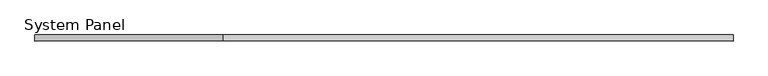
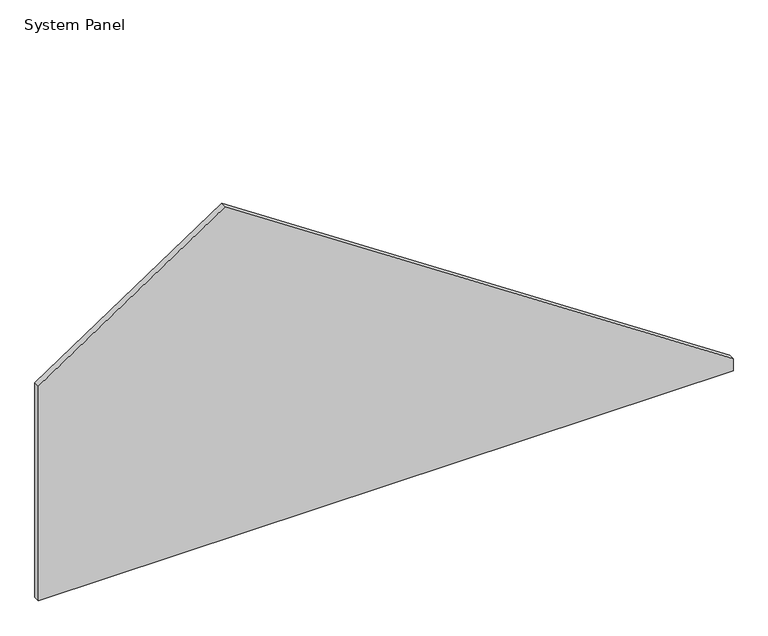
"""IFC4 building model written with IfcOpenShell, lengths in millimetres: plate geometry."""

import ifcopenshell
import ifcopenshell.guid

model = None  # the IFC model being written
_history = None  # IfcOwnerHistory: only IFC2X3 demands one
_inside = {}  # id of a spatial element -> (the spatial element, [elements in it])
_under = {}  # id of a project, library or spatial element -> (it, [spatial elements below it])
_declared = {}  # id of a project -> (the project, [libraries it declares])
_typed = {}  # id of a type object -> (the type object, [elements of that type])
_made_of = {}  # id of a material, layer set ... -> (it, [elements and type objects made of it])


def new_model(schema):
    """Start an empty IFC model of exactly this schema.

    Asked for "IFC4X3", IfcOpenShell would pick the latest addendum, in which some entities
    have other attributes; the version numbers below select the first issue.
    IFC2X3 requires an IfcOwnerHistory on every rooted entity: one is made here for all.
    """
    global model, _history
    if schema == "IFC4X3":
        model = ifcopenshell.file(schema_version=(4, 3, 0, 0))
    else:
        model = ifcopenshell.file(schema=schema)
    _inside.clear()
    _under.clear()
    _declared.clear()
    _typed.clear()
    _made_of.clear()
    _history = None
    if model.schema == "IFC2X3":
        org = make("IfcOrganization", Name="unknown")
        user = make(
            "IfcPersonAndOrganization",
            ThePerson=make("IfcPerson", FamilyName="unknown"),
            TheOrganization=org,
        )
        app = make(
            "IfcApplication",
            ApplicationDeveloper=org,
            Version="unknown",
            ApplicationFullName="unknown",
            ApplicationIdentifier="unknown",
        )
        _history = make(
            "IfcOwnerHistory",
            OwningUser=user,
            OwningApplication=app,
            ChangeAction="ADDED",
            CreationDate=0,
        )
    return model


def make(cls, **values):
    """One entity of the class cls with the attributes given. An attribute that is None is left unset."""
    return model.create_entity(
        cls, **{name: value for name, value in values.items() if value is not None}
    )


def rooted(cls, **values):
    """An entity with a GlobalId (a new one), such as an element, a storey or a relation."""
    return make(cls, GlobalId=ifcopenshell.guid.new(), OwnerHistory=_history, **values)


def si_unit(unit_type, name, prefix=None):
    """IfcSIUnit, for example si_unit("LENGTHUNIT", "METRE", prefix="MILLI")."""
    return make("IfcSIUnit", UnitType=unit_type, Prefix=prefix, Name=name)


def assignment(units):
    """IfcUnitAssignment: the units of a project."""
    return None if units is None else make("IfcUnitAssignment", Units=units)


def point(xyz):
    """IfcCartesianPoint."""
    return None if xyz is None else make("IfcCartesianPoint", Coordinates=xyz)


def direction(xyz):
    """IfcDirection."""
    return None if xyz is None else make("IfcDirection", DirectionRatios=xyz)


def frame(location, z_axis=None, x_axis=None):
    """IfcAxis2Placement3D, a coordinate frame: its origin and axes. An axis left out is left unset."""
    return make(
        "IfcAxis2Placement3D",
        Location=point(location),
        Axis=direction(z_axis),
        RefDirection=direction(x_axis),
    )


def origin():
    """The frame at (0, 0, 0) with its axes left unset."""
    return frame((0.0, 0.0, 0.0))


def place(relative_to, where):
    """IfcLocalPlacement: puts the frame where relative to a parent placement (None: the world)."""
    return make(
        "IfcLocalPlacement", PlacementRelTo=relative_to, RelativePlacement=where
    )


def context(
    kind, dimensions, precision=None, world=None, true_north=None, identifier=None
):
    """IfcGeometricRepresentationContext, for example the 3D "Model" context."""
    return make(
        "IfcGeometricRepresentationContext",
        ContextIdentifier=identifier,
        ContextType=kind,
        CoordinateSpaceDimension=dimensions,
        Precision=precision,
        WorldCoordinateSystem=world,
        TrueNorth=true_north,
    )


def project(units=None, contexts=None):
    """IfcProject with its units and contexts."""
    return rooted(
        "IfcProject",
        Name="project",
        RepresentationContexts=contexts,
        UnitsInContext=assignment(units),
    )


def spatial(cls, under=None, at=None, **own):
    """A site, building, storey or space (cls), placed at a placement, below another one or the project."""
    s = rooted(cls, ObjectPlacement=at, **own)
    if under is not None:
        _under.setdefault(under.id(), (under, []))[1].append(s)
    return s


def polyline(points):
    """IfcPolyline through the points."""
    return make("IfcPolyline", Points=[point(p) for p in points])


def outline(outer, holes=None, kind="AREA"):
    """IfcArbitraryClosedProfileDef: a profile drawn as a closed curve; with holes, ...WithVoids."""
    if holes is None:
        return make("IfcArbitraryClosedProfileDef", ProfileType=kind, OuterCurve=outer)
    return make(
        "IfcArbitraryProfileDefWithVoids",
        ProfileType=kind,
        OuterCurve=outer,
        InnerCurves=holes,
    )


def extrude(swept, where, along, depth):
    """IfcExtrudedAreaSolid: the profile swept, set in the frame where, extruded along a direction by depth."""
    return make(
        "IfcExtrudedAreaSolid",
        SweptArea=swept,
        Position=where,
        ExtrudedDirection=direction(along),
        Depth=depth,
    )


def shape(context_of_items, identifier, shape_type, items):
    """IfcShapeRepresentation: the items that make up one representation, for example the "Body"."""
    return make(
        "IfcShapeRepresentation",
        ContextOfItems=context_of_items,
        RepresentationIdentifier=identifier,
        RepresentationType=shape_type,
        Items=items,
    )


def source(mapping_origin, context_of_items, identifier, shape_type, items):
    """IfcRepresentationMap: a shape defined once, which mapped items show again and again."""
    return make(
        "IfcRepresentationMap",
        MappingOrigin=mapping_origin,
        MappedRepresentation=shape(context_of_items, identifier, shape_type, items),
    )


def transform(
    local_origin,
    x_axis=None,
    y_axis=None,
    z_axis=None,
    scale=None,
    scale2=None,
    scale3=None,
    uniform=True,
):
    """IfcCartesianTransformationOperator3D, or its non-uniform kind. x_axis, y_axis, z_axis: its Axis1, 2, 3."""
    if uniform:
        return make(
            "IfcCartesianTransformationOperator3D",
            Axis1=direction(x_axis),
            Axis2=direction(y_axis),
            LocalOrigin=point(local_origin),
            Scale=scale,
            Axis3=direction(z_axis),
        )
    return make(
        "IfcCartesianTransformationOperator3DnonUniform",
        Axis1=direction(x_axis),
        Axis2=direction(y_axis),
        LocalOrigin=point(local_origin),
        Scale=scale,
        Axis3=direction(z_axis),
        Scale2=scale2,
        Scale3=scale3,
    )


def mapped(mapping_source, mapping_target):
    """IfcMappedItem: shows the shape of a source again, moved by a transform."""
    return make(
        "IfcMappedItem", MappingSource=mapping_source, MappingTarget=mapping_target
    )


def made_of(thing, what):
    """Note that an element or type object is made of a material, layer set ...; save() writes the relation."""
    if what is not None:
        _made_of.setdefault(what.id(), (what, []))[1].append(thing)
    return thing


def element(
    cls,
    number,
    at=None,
    inside=None,
    cuts=None,
    type_object=None,
    material=None,
    context=None,
    identifier="Body",
    shape_type=None,
    held_by="IfcProductDefinitionShape",
    body=None,
    shapes=None,
    **own,
):
    """One element of the class cls, such as IfcWall. Its Tag is "e" and its number.

    at: its placement. inside: the storey or other place that contains it. cuts: it is an
    opening in that element (IfcRelVoidsElement). A single representation is given by context,
    identifier, shape_type and body (its items); several are given by shapes. held_by: the class
    of the entity that holds the representations. save() writes the other relations.
    """
    e = rooted(cls, Tag="e%d" % number, ObjectPlacement=at, **own)
    if body is not None:
        shapes = [shape(context, identifier, shape_type, body)]
    if shapes is not None:
        e.Representation = make(held_by, Representations=shapes)
    if inside is not None:
        _inside.setdefault(inside.id(), (inside, []))[1].append(e)
    if cuts is not None:
        rooted(
            "IfcRelVoidsElement", RelatingBuildingElement=cuts, RelatedOpeningElement=e
        )
    if type_object is not None:
        _typed.setdefault(type_object.id(), (type_object, []))[1].append(e)
    return made_of(e, material)


def aggregate(whole, parts):
    """IfcRelAggregates: a whole, such as a stair, and the parts it consists of."""
    return rooted("IfcRelAggregates", RelatingObject=whole, RelatedObjects=parts)


def save(model, path):
    """Write the relations noted so far, then the file.

    IfcRelAggregates (storeys below a building ...), IfcRelContainedInSpatialStructure (elements
    in a storey), IfcRelDefinesByType, IfcRelAssociatesMaterial and IfcRelDeclares: one each for
    every whole, place, type object, material and project.
    """
    for whole, parts in _under.values():
        aggregate(whole, parts)
    for where, things in _inside.values():
        rooted(
            "IfcRelContainedInSpatialStructure",
            RelatedElements=things,
            RelatingStructure=where,
        )
    for kind, things in _typed.values():
        rooted("IfcRelDefinesByType", RelatedObjects=things, RelatingType=kind)
    for what, things in _made_of.values():
        rooted("IfcRelAssociatesMaterial", RelatedObjects=things, RelatingMaterial=what)
    for by, libraries in _declared.values():
        rooted("IfcRelDeclares", RelatingContext=by, RelatedDefinitions=libraries)
    model.write(path)


def system_panel_140a6a68(model_context):
    return source(origin(), model_context, "Body", "SweptSolid", [
        extrude(outline(polyline([(0.0, -2185.19375), (0.0, 2185.19375), (80.0688325, 2185.19375), (2210.4938325, -1010.44375), (1427.3271659, -2185.19375), (0.0, -2185.19375)])), frame((0.0, -19.05, 0.0), z_axis=(0.0, 1.0, 0.0), x_axis=(0.0, 0.0, 1.0)), (0.0, 0.0, 1.0), 38.1),
    ])


if __name__ == "__main__":
    model = new_model("IFC4")
    model_context = context("Model", 3, world=origin())
    ifc_project = project(units=[si_unit("LENGTHUNIT", "METRE", prefix="MILLI")], contexts=[model_context])
    site = spatial("IfcSite", under=ifc_project)
    building = spatial("IfcBuilding", under=site)
    placement = place(None, origin())
    system_panel_shape = system_panel_140a6a68(model_context)
    element("IfcPlate", 1, ObjectType="System Panel : 1/2\" Plywood & 1\" Rigid Ins.", at=placement, inside=building, context=model_context, shape_type="MappedRepresentation", body=[
        mapped(system_panel_shape, transform((0.0, 0.0, 0.0), x_axis=(1.0, 0.0, 0.0), y_axis=(0.0, 1.0, 0.0), z_axis=(0.0, 0.0, 1.0))),
    ])
    save(model, "model.ifc")
